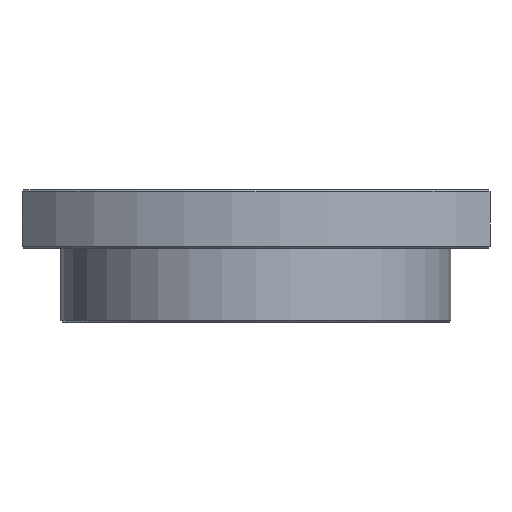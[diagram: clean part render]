
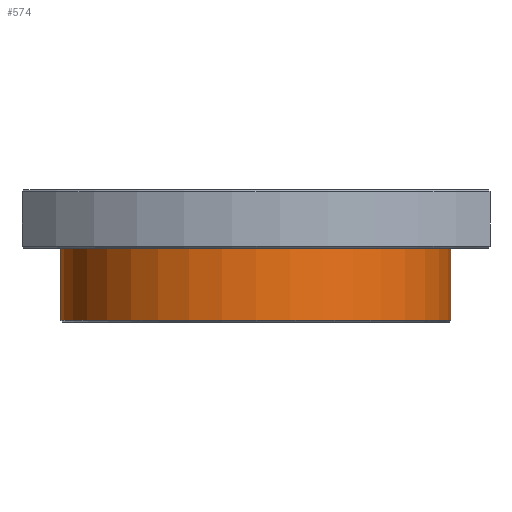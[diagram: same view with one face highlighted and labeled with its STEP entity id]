
A CAD part, left-side view. The second image highlights one B-rep face of the part: STEP entity #574.
In plain terms, the highlighted cylindrical face has radius 50 mm (diameter 100 mm), a partial arc.
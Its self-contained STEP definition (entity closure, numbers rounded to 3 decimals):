
#179 = CARTESIAN_POINT ( 'NONE',  ( 0., 50., 2. ) ) ;
#181 = CARTESIAN_POINT ( 'NONE',  ( 0., -50., -16.5 ) ) ;
#201 = CARTESIAN_POINT ( 'NONE',  ( 0., 50., -16.5 ) ) ;
#205 = CARTESIAN_POINT ( 'NONE',  ( 0., -50., 2. ) ) ;
#435 = EDGE_CURVE ( 'NONE', #1104, #1152, #597, .T. ) ;
#471 = EDGE_CURVE ( 'NONE', #1112, #1152, #2170, .T. ) ;
#477 = EDGE_CURVE ( 'NONE', #1139, #1104, #2187, .T. ) ;
#524 = EDGE_CURVE ( 'NONE', #1139, #1112, #749, .T. ) ;
#574 = ADVANCED_FACE ( 'NONE', ( #898 ), #889, .T. ) ;
#597 = CIRCLE ( 'NONE', #2641, 50. ) ;
#749 = CIRCLE ( 'NONE', #2622, 50. ) ;
#889 = CYLINDRICAL_SURFACE ( 'NONE', #900, 50. ) ;
#898 = FACE_OUTER_BOUND ( 'NONE', #1036, .T. ) ;
#900 = AXIS2_PLACEMENT_3D ( 'NONE', #2495, #2496, #2497 ) ;
#1036 = EDGE_LOOP ( 'NONE', ( #1304, #1305, #1302, #1307 ) ) ;
#1104 = VERTEX_POINT ( 'NONE', #179 ) ;
#1112 = VERTEX_POINT ( 'NONE', #181 ) ;
#1139 = VERTEX_POINT ( 'NONE', #201 ) ;
#1152 = VERTEX_POINT ( 'NONE', #205 ) ;
#1302 = ORIENTED_EDGE ( 'NONE', *, *, #471, .T. ) ;
#1304 = ORIENTED_EDGE ( 'NONE', *, *, #477, .F. ) ;
#1305 = ORIENTED_EDGE ( 'NONE', *, *, #524, .T. ) ;
#1307 = ORIENTED_EDGE ( 'NONE', *, *, #435, .F. ) ;
#2061 = CARTESIAN_POINT ( 'NONE',  ( 0., 0., 2. ) ) ;
#2062 = DIRECTION ( 'NONE',  ( 0., 0., 1. ) ) ;
#2063 = DIRECTION ( 'NONE',  ( 0., -1., 0. ) ) ;
#2170 = LINE ( 'NONE', #2171, #2855 ) ;
#2171 = CARTESIAN_POINT ( 'NONE',  ( 0., -50., 17. ) ) ;
#2172 = DIRECTION ( 'NONE',  ( 0., 0., 1. ) ) ;
#2187 = LINE ( 'NONE', #2188, #2830 ) ;
#2188 = CARTESIAN_POINT ( 'NONE',  ( 0., 50., 17. ) ) ;
#2189 = DIRECTION ( 'NONE',  ( 0., 0., 1. ) ) ;
#2336 = CARTESIAN_POINT ( 'NONE',  ( 0., 0., -16.5 ) ) ;
#2337 = DIRECTION ( 'NONE',  ( 0., 0., 1. ) ) ;
#2338 = DIRECTION ( 'NONE',  ( 0., -1., 0. ) ) ;
#2495 = CARTESIAN_POINT ( 'NONE',  ( 0., 0., 17. ) ) ;
#2496 = DIRECTION ( 'NONE',  ( 0., 0., 1. ) ) ;
#2497 = DIRECTION ( 'NONE',  ( 0., -1., 0. ) ) ;
#2622 = AXIS2_PLACEMENT_3D ( 'NONE', #2336, #2337, #2338 ) ;
#2641 = AXIS2_PLACEMENT_3D ( 'NONE', #2061, #2062, #2063 ) ;
#2830 = VECTOR ( 'NONE', #2189, 1000. ) ;
#2855 = VECTOR ( 'NONE', #2172, 1000. ) ;
